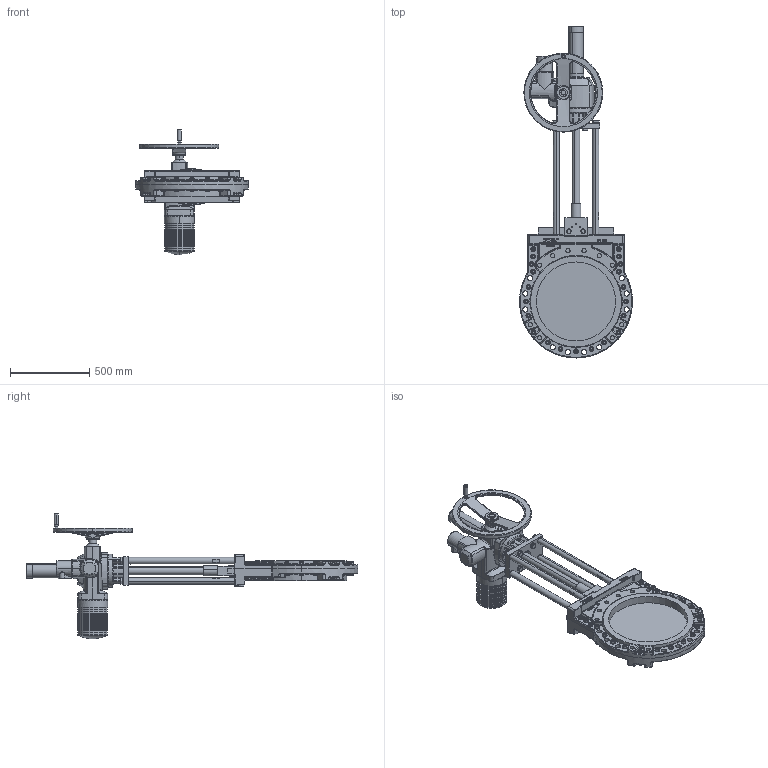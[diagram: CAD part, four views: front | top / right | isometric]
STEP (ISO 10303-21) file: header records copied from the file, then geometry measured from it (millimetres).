
FILE_DESCRIPTION (( 'STEP AP214' ), '1' );
FILE_NAME ('MGE DN 0500 PN16 (SA 16.2).STEP', '2015-09-23T08:50:02', ( 'admin' ), ( 'Hewlett-Packard Company' ), 'SwSTEP 2.0', 'SolidWorks 2013', '' );
FILE_SCHEMA (( 'AUTOMOTIVE_DESIGN' ));
Length unit declared in the file: millimetre
Products named in the file (1): MGE DN 0500 PN16 (SA 16.2)
Bounding box: 715 x 2100.5 x 795 mm (x, y, z)
Volume: 67783779.7 mm3; surface area: 4074745.8 mm2
Topology: 112 solids, 123 shells, 3946 faces, 9048 edges, 5422 vertices
Faces by surface type: plane 1379, cylinder 1091, cone 669, bspline 465, torus 293, sphere 49
Entity records: 188795 total; most frequent: CARTESIAN_POINT 58268, ORIENTED_EDGE 17900, DIRECTION 17701, EDGE_CURVE 8950, AXIS2_PLACEMENT_3D 7209, VERTEX_POINT 5422, EDGE_LOOP 4376, UNCERTAINTY_MEASURE_WITH_UNIT 4058
